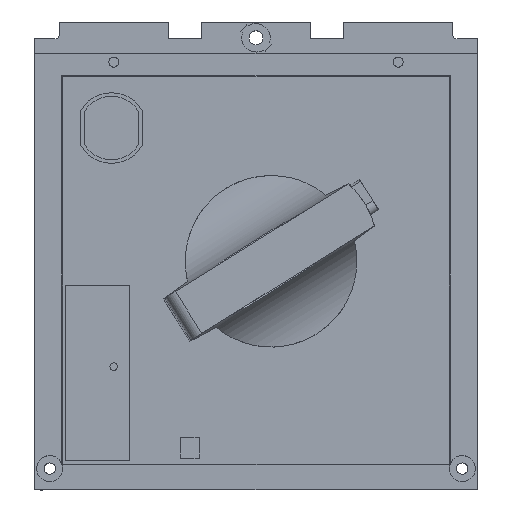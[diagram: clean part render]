
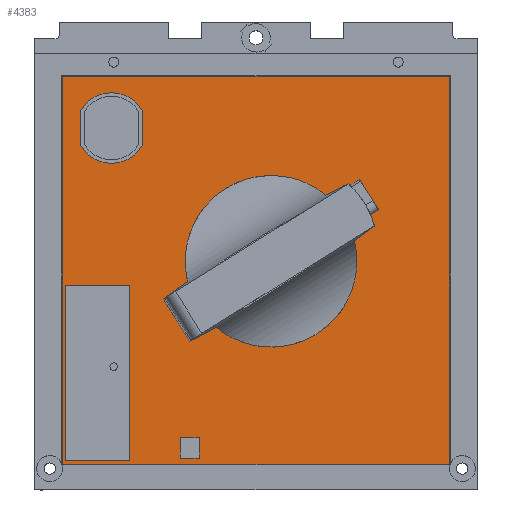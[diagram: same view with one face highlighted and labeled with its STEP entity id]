
A CAD part, top view. The second image highlights one B-rep face of the part: STEP entity #4383.
In plain terms, the highlighted planar face has unit normal (0, 0, 1).
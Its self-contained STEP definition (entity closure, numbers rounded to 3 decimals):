
#1156=DIRECTION('',(-1.,0.,0.));
#1157=VECTOR('',#1156,122.389);
#1158=CARTESIAN_POINT('',(131.195,130.695,49.5));
#1159=LINE('',#1158,#1157);
#1168=DIRECTION('',(-1.,0.,0.));
#1169=VECTOR('',#1168,122.389);
#1170=CARTESIAN_POINT('',(131.195,8.,49.5));
#1171=LINE('',#1170,#1169);
#1172=DIRECTION('',(0.,1.,0.));
#1173=VECTOR('',#1172,122.695);
#1174=CARTESIAN_POINT('',(8.805,8.,49.5));
#1175=LINE('',#1174,#1173);
#1176=CARTESIAN_POINT('',(24.3,114.4,49.5));
#1177=DIRECTION('',(0.,0.,1.));
#1178=DIRECTION('',(0.865,0.501,0.));
#1179=AXIS2_PLACEMENT_3D('',#1176,#1177,#1178);
#1181=CARTESIAN_POINT('',(24.3,114.4,49.5));
#1182=DIRECTION('',(0.,0.,1.));
#1183=DIRECTION('',(-0.865,-0.501,0.));
#1184=AXIS2_PLACEMENT_3D('',#1181,#1182,#1183);
#1186=CARTESIAN_POINT('',(75.,72.6,49.5));
#1187=DIRECTION('',(0.,0.,1.));
#1188=DIRECTION('',(1.,0.,0.));
#1189=AXIS2_PLACEMENT_3D('',#1186,#1187,#1188);
#1191=CARTESIAN_POINT('',(75.,72.6,49.5));
#1192=DIRECTION('',(0.,0.,1.));
#1193=DIRECTION('',(-1.,0.,0.));
#1194=AXIS2_PLACEMENT_3D('',#1191,#1192,#1193);
#1196=DIRECTION('',(1.,0.,0.));
#1197=VECTOR('',#1196,6.);
#1198=CARTESIAN_POINT('',(46.05,10.,49.5));
#1199=LINE('',#1198,#1197);
#1200=DIRECTION('',(0.,1.,0.));
#1201=VECTOR('',#1200,6.48);
#1202=CARTESIAN_POINT('',(52.05,10.,49.5));
#1203=LINE('',#1202,#1201);
#1204=DIRECTION('',(-1.,0.,0.));
#1205=VECTOR('',#1204,6.);
#1206=CARTESIAN_POINT('',(52.05,16.48,49.5));
#1207=LINE('',#1206,#1205);
#1208=DIRECTION('',(0.,-1.,0.));
#1209=VECTOR('',#1208,6.48);
#1210=CARTESIAN_POINT('',(46.05,16.48,49.5));
#1211=LINE('',#1210,#1209);
#1216=DIRECTION('',(0.,1.,0.));
#1217=VECTOR('',#1216,122.695);
#1218=CARTESIAN_POINT('',(131.195,8.,49.5));
#1219=LINE('',#1218,#1217);
#1224=DIRECTION('',(1.,0.,0.));
#1225=VECTOR('',#1224,20.5);
#1226=CARTESIAN_POINT('',(9.6,64.6,49.5));
#1227=LINE('',#1226,#1225);
#1232=DIRECTION('',(0.,-1.,0.));
#1233=VECTOR('',#1232,55.5);
#1234=CARTESIAN_POINT('',(30.1,64.6,49.5));
#1235=LINE('',#1234,#1233);
#1240=DIRECTION('',(-1.,0.,0.));
#1241=VECTOR('',#1240,20.5);
#1242=CARTESIAN_POINT('',(30.1,9.1,49.5));
#1243=LINE('',#1242,#1241);
#1248=DIRECTION('',(0.,1.,0.));
#1249=VECTOR('',#1248,55.5);
#1250=CARTESIAN_POINT('',(9.6,9.1,49.5));
#1251=LINE('',#1250,#1249);
#1308=DIRECTION('',(0.,-1.,0.));
#1309=VECTOR('',#1308,11.171);
#1310=CARTESIAN_POINT('',(33.95,119.986,49.5));
#1311=LINE('',#1310,#1309);
#1320=DIRECTION('',(0.,1.,0.));
#1321=VECTOR('',#1320,11.171);
#1322=CARTESIAN_POINT('',(14.65,108.814,49.5));
#1323=LINE('',#1322,#1321);
#2763=CARTESIAN_POINT('',(8.805,8.,49.5));
#2764=VERTEX_POINT('',#2763);
#2765=CARTESIAN_POINT('',(131.195,8.,49.5));
#2766=VERTEX_POINT('',#2765);
#2767=CARTESIAN_POINT('',(8.805,130.695,49.5));
#2768=VERTEX_POINT('',#2767);
#2769=CARTESIAN_POINT('',(131.195,130.695,49.5));
#2770=VERTEX_POINT('',#2769);
#2771=CARTESIAN_POINT('',(9.6,64.6,49.5));
#2772=CARTESIAN_POINT('',(30.1,64.6,49.5));
#2773=VERTEX_POINT('',#2771);
#2774=VERTEX_POINT('',#2772);
#2775=CARTESIAN_POINT('',(9.6,9.1,49.5));
#2776=VERTEX_POINT('',#2775);
#2777=CARTESIAN_POINT('',(30.1,9.1,49.5));
#2778=VERTEX_POINT('',#2777);
#2779=CARTESIAN_POINT('',(33.95,119.986,49.5));
#2780=CARTESIAN_POINT('',(14.65,119.986,49.5));
#2781=VERTEX_POINT('',#2779);
#2782=VERTEX_POINT('',#2780);
#2783=CARTESIAN_POINT('',(14.65,108.814,49.5));
#2784=VERTEX_POINT('',#2783);
#2785=CARTESIAN_POINT('',(33.95,108.814,49.5));
#2786=VERTEX_POINT('',#2785);
#2787=CARTESIAN_POINT('',(87.208,72.6,49.5));
#2788=CARTESIAN_POINT('',(62.792,72.6,49.5));
#2789=VERTEX_POINT('',#2787);
#2790=VERTEX_POINT('',#2788);
#2879=CARTESIAN_POINT('',(46.05,10.,49.5));
#2880=CARTESIAN_POINT('',(52.05,10.,49.5));
#2881=VERTEX_POINT('',#2879);
#2882=VERTEX_POINT('',#2880);
#2883=CARTESIAN_POINT('',(52.05,16.48,49.5));
#2884=VERTEX_POINT('',#2883);
#2885=CARTESIAN_POINT('',(46.05,16.48,49.5));
#2886=VERTEX_POINT('',#2885);
#4335=CARTESIAN_POINT('',(8.805,8.,49.5));
#4336=DIRECTION('',(0.,0.,-1.));
#4337=DIRECTION('',(1.,0.,0.));
#4338=AXIS2_PLACEMENT_3D('',#4335,#4336,#4337);
#4339=PLANE('',#4338);
#4340=ORIENTED_EDGE('',*,*,#4326,.F.);
#4342=ORIENTED_EDGE('',*,*,#4341,.F.);
#4343=ORIENTED_EDGE('',*,*,#4168,.T.);
#4344=ORIENTED_EDGE('',*,*,#4315,.T.);
#4345=EDGE_LOOP('',(#4340,#4342,#4343,#4344));
#4346=FACE_OUTER_BOUND('',#4345,.F.);
#4348=ORIENTED_EDGE('',*,*,#4347,.F.);
#4350=ORIENTED_EDGE('',*,*,#4349,.F.);
#4352=ORIENTED_EDGE('',*,*,#4351,.F.);
#4354=ORIENTED_EDGE('',*,*,#4353,.F.);
#4355=EDGE_LOOP('',(#4348,#4350,#4352,#4354));
#4356=FACE_BOUND('',#4355,.F.);
#4358=ORIENTED_EDGE('',*,*,#4357,.T.);
#4360=ORIENTED_EDGE('',*,*,#4359,.F.);
#4362=ORIENTED_EDGE('',*,*,#4361,.T.);
#4364=ORIENTED_EDGE('',*,*,#4363,.F.);
#4365=EDGE_LOOP('',(#4358,#4360,#4362,#4364));
#4366=FACE_BOUND('',#4365,.F.);
#4368=ORIENTED_EDGE('',*,*,#4367,.T.);
#4370=ORIENTED_EDGE('',*,*,#4369,.T.);
#4371=EDGE_LOOP('',(#4368,#4370));
#4372=FACE_BOUND('',#4371,.F.);
#4374=ORIENTED_EDGE('',*,*,#4373,.T.);
#4376=ORIENTED_EDGE('',*,*,#4375,.T.);
#4378=ORIENTED_EDGE('',*,*,#4377,.T.);
#4380=ORIENTED_EDGE('',*,*,#4379,.T.);
#4381=EDGE_LOOP('',(#4374,#4376,#4378,#4380));
#4382=FACE_BOUND('',#4381,.F.);
#4383=ADVANCED_FACE('',(#4346,#4356,#4366,#4372,#4382),#4339,.F.);
#1180=CIRCLE('',#1179,11.15);
#1185=CIRCLE('',#1184,11.15);
#1190=CIRCLE('',#1189,12.208);
#1195=CIRCLE('',#1194,12.208);
#4168=EDGE_CURVE('',#2766,#2764,#1171,.T.);
#4315=EDGE_CURVE('',#2764,#2768,#1175,.T.);
#4326=EDGE_CURVE('',#2770,#2768,#1159,.T.);
#4341=EDGE_CURVE('',#2766,#2770,#1219,.T.);
#4347=EDGE_CURVE('',#2773,#2774,#1227,.T.);
#4349=EDGE_CURVE('',#2776,#2773,#1251,.T.);
#4351=EDGE_CURVE('',#2778,#2776,#1243,.T.);
#4353=EDGE_CURVE('',#2774,#2778,#1235,.T.);
#4357=EDGE_CURVE('',#2781,#2782,#1180,.T.);
#4359=EDGE_CURVE('',#2784,#2782,#1323,.T.);
#4361=EDGE_CURVE('',#2784,#2786,#1185,.T.);
#4363=EDGE_CURVE('',#2781,#2786,#1311,.T.);
#4367=EDGE_CURVE('',#2789,#2790,#1190,.T.);
#4369=EDGE_CURVE('',#2790,#2789,#1195,.T.);
#4373=EDGE_CURVE('',#2881,#2882,#1199,.T.);
#4375=EDGE_CURVE('',#2882,#2884,#1203,.T.);
#4377=EDGE_CURVE('',#2884,#2886,#1207,.T.);
#4379=EDGE_CURVE('',#2886,#2881,#1211,.T.);
